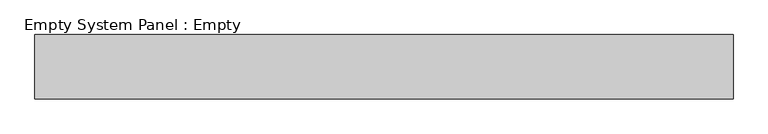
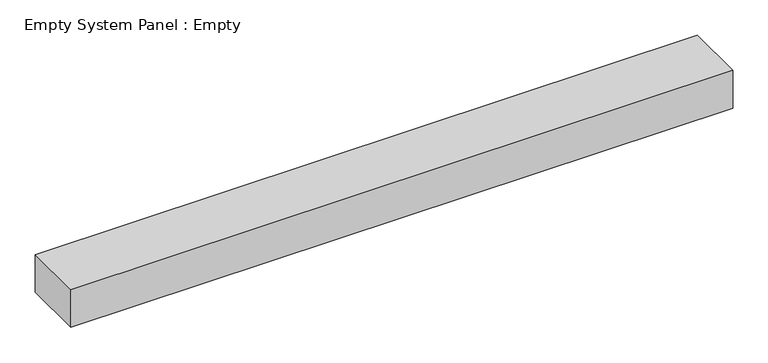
"""IFC4 building model written with IfcOpenShell, lengths in millimetres: plate geometry, Empty System Panel : Empty."""

from ifc_helpers import new_model, si_unit, origin, origin_with_axes, place, context, project, spatial, polyline, outline, extrude, source, transform, mapped, element, save


def empty_system_panel_empty_6a0359b6(model_context):
    return source(origin(), model_context, "Body", "SweptSolid", [
        extrude(outline(polyline([(541.0714286, -50.0), (-541.0714286, -50.0), (-541.0714286, 50.0), (541.0714286, 50.0), (541.0714286, -50.0)])), origin_with_axes(), (0.0, 0.0, 1.0), 65.0),
    ])


if __name__ == "__main__":
    model = new_model("IFC4")
    model_context = context("Model", 3, world=origin())
    ifc_project = project(units=[si_unit("LENGTHUNIT", "METRE", prefix="MILLI")], contexts=[model_context])
    site = spatial("IfcSite", under=ifc_project)
    building = spatial("IfcBuilding", under=site)
    placement = place(None, origin())
    empty_system_panel_empty_shape = empty_system_panel_empty_6a0359b6(model_context)
    element("IfcPlate", 1, ObjectType="Empty System Panel : Empty", at=placement, inside=building, context=model_context, shape_type="MappedRepresentation", body=[
        mapped(empty_system_panel_empty_shape, transform((0.0, 0.0, 0.0), x_axis=(1.0, 0.0, 0.0), y_axis=(0.0, 1.0, 0.0), z_axis=(0.0, 0.0, 1.0))),
    ])
    save(model, "model.ifc")
